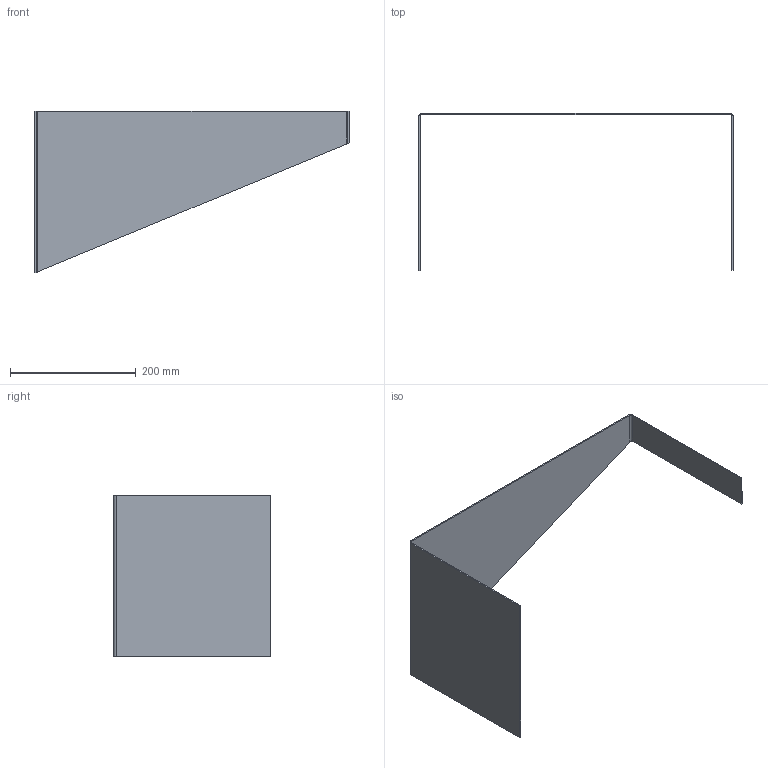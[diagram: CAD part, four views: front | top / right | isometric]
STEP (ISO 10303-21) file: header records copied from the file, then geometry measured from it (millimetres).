
FILE_DESCRIPTION (( 'STEP AP203' ), '1' );
FILE_NAME ('Demi élément droit Rep.2.2a.STEP', '2015-02-16T13:03:31', ( '' ), ( '' ), 'SwSTEP 2.0', 'SolidWorks 2014', '' );
FILE_SCHEMA (( 'CONFIG_CONTROL_DESIGN' ));
Length unit declared in the file: millimetre
Products named in the file (1): Demi 幨幦ent droit Rep.2.2a
Bounding box: 500 x 250 x 256.28 mm (x, y, z)
Volume: 304516.8 mm3; surface area: 309182.9 mm2
Topology: 1 solids, 1 shells, 22 faces, 44 edges, 24 vertices
Faces by surface type: plane 16, cylinder 4, bspline 2
Entity records: 667 total; most frequent: CARTESIAN_POINT 157, ORIENTED_EDGE 88, DIRECTION 86, EDGE_CURVE 44, LINE 36, VECTOR 36, AXIS2_PLACEMENT_3D 25, VERTEX_POINT 24
